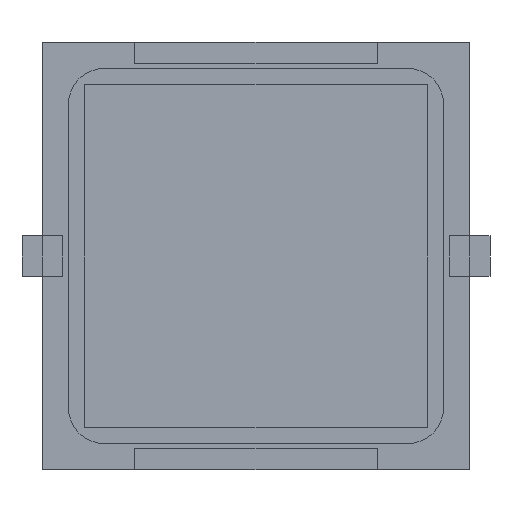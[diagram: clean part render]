
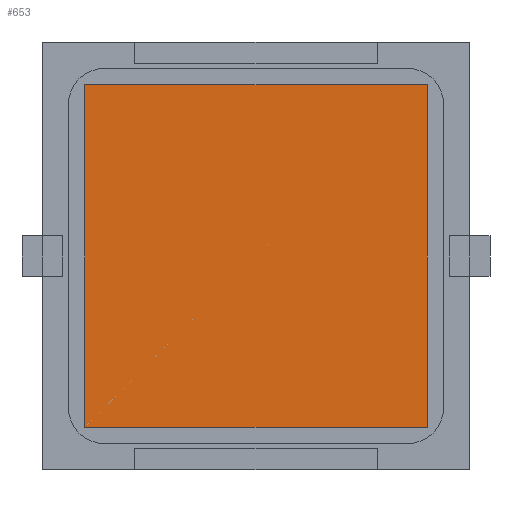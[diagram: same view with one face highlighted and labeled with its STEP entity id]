
A CAD part, front view. The second image highlights one B-rep face of the part: STEP entity #653.
In plain terms, the highlighted planar face has unit normal (0, -1, 0).
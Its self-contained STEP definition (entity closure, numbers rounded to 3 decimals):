
#32 = ORIENTED_EDGE ( 'NONE', *, *, #2429, .F. ) ;
#571 = CARTESIAN_POINT ( 'NONE',  ( 8.5, -0.1, -8.5 ) ) ;
#653 = ADVANCED_FACE ( 'NONE', ( #2517 ), #1039, .F. ) ;
#772 = DIRECTION ( 'NONE',  ( -1., 0., 0. ) ) ;
#799 = CARTESIAN_POINT ( 'NONE',  ( -8.5, -0.1, -8.5 ) ) ;
#830 = VECTOR ( 'NONE', #2487, 1000. ) ;
#911 = AXIS2_PLACEMENT_3D ( 'NONE', #2537, #1400, #2741 ) ;
#1039 = PLANE ( 'NONE',  #911 ) ;
#1193 = DIRECTION ( 'NONE',  ( 0., 0., 1. ) ) ;
#1208 = VECTOR ( 'NONE', #772, 1000. ) ;
#1233 = LINE ( 'NONE', #4240, #1208 ) ;
#1301 = EDGE_CURVE ( 'NONE', #4050, #3281, #2063, .T. ) ;
#1400 = DIRECTION ( 'NONE',  ( 0., 1., 0. ) ) ;
#1557 = CARTESIAN_POINT ( 'NONE',  ( 8.5, -0.1, -8.5 ) ) ;
#1568 = ORIENTED_EDGE ( 'NONE', *, *, #1301, .F. ) ;
#1629 = CARTESIAN_POINT ( 'NONE',  ( 8.5, -0.1, 8.5 ) ) ;
#2063 = LINE ( 'NONE', #571, #830 ) ;
#2429 = EDGE_CURVE ( 'NONE', #3841, #4050, #2831, .T. ) ;
#2487 = DIRECTION ( 'NONE',  ( 0., 0., -1. ) ) ;
#2517 = FACE_OUTER_BOUND ( 'NONE', #4495, .T. ) ;
#2537 = CARTESIAN_POINT ( 'NONE',  ( -8.5, -0.1, 8.5 ) ) ;
#2674 = ORIENTED_EDGE ( 'NONE', *, *, #3314, .F. ) ;
#2741 = DIRECTION ( 'NONE',  ( 0., 0., 1. ) ) ;
#2770 = CARTESIAN_POINT ( 'NONE',  ( -8.5, -0.1, 8.5 ) ) ;
#2831 = LINE ( 'NONE', #2770, #4081 ) ;
#3281 = VERTEX_POINT ( 'NONE', #1557 ) ;
#3314 = EDGE_CURVE ( 'NONE', #3433, #3841, #3346, .T. ) ;
#3344 = CARTESIAN_POINT ( 'NONE',  ( -8.5, -0.1, 8.5 ) ) ;
#3346 = LINE ( 'NONE', #799, #4398 ) ;
#3433 = VERTEX_POINT ( 'NONE', #4057 ) ;
#3841 = VERTEX_POINT ( 'NONE', #3344 ) ;
#3880 = DIRECTION ( 'NONE',  ( 1., 0., 0. ) ) ;
#4050 = VERTEX_POINT ( 'NONE', #1629 ) ;
#4057 = CARTESIAN_POINT ( 'NONE',  ( -8.5, -0.1, -8.5 ) ) ;
#4081 = VECTOR ( 'NONE', #3880, 1000. ) ;
#4240 = CARTESIAN_POINT ( 'NONE',  ( -8.5, -0.1, -8.5 ) ) ;
#4313 = EDGE_CURVE ( 'NONE', #3281, #3433, #1233, .T. ) ;
#4398 = VECTOR ( 'NONE', #1193, 1000. ) ;
#4495 = EDGE_LOOP ( 'NONE', ( #2674, #4823, #1568, #32 ) ) ;
#4823 = ORIENTED_EDGE ( 'NONE', *, *, #4313, .F. ) ;
